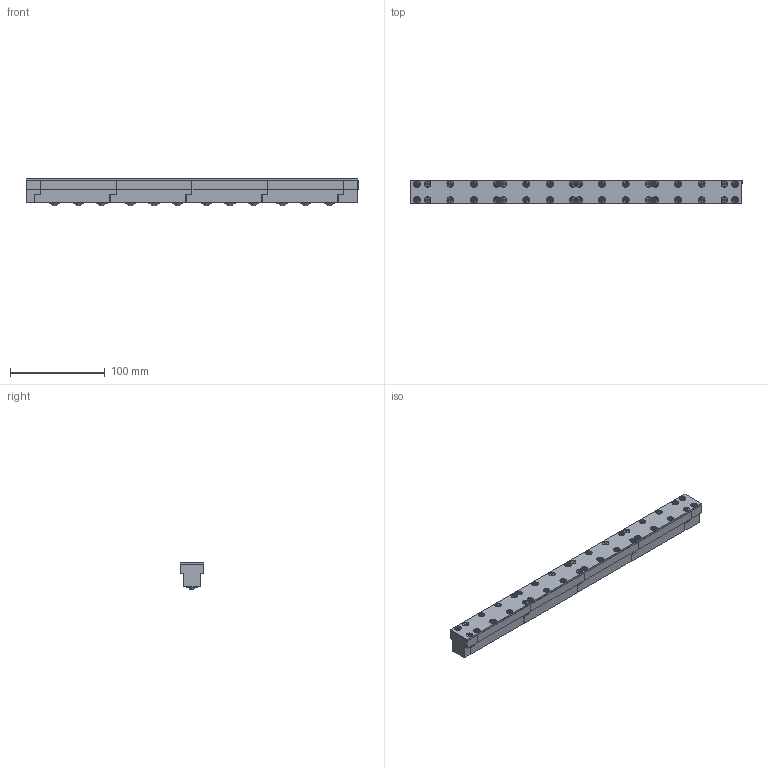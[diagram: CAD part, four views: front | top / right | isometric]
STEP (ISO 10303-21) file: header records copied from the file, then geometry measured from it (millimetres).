
FILE_DESCRIPTION(/* description */ (''),/* implementation_level */ '2;1');
FILE_NAME(/* name */ 'Z:\34-Tei\01-web 3Dデータ\43-ISR-18T\X2\578B\X0\\ISR-18T-350.stp',/* time_stamp */ '2015-01-16T10:27:47+09:00',/* author */ ('yamaki'),/* organization */ (''),/* preprocessor_version */ 'ST-DEVELOPER v15.6',/* originating_system */ 'Autodesk Inventor 2015',/* authorisation */ '');
FILE_SCHEMA (('AUTOMOTIVE_DESIGN { 1 0 10303 214 3 1 1 }'));
Length unit declared in the file: millimetre
Products named in the file (9): 4912; 4903TB; 4903CB; JIS B 1111 - Csunk M3 x 6 - H; JIS B 1176 - M3 x 10; 4903SL; A108AA; 4903PS; 4903AA
Bounding box: 350 x 25 x 28.97 mm (x, y, z)
Volume: 164255.9 mm3; surface area: 106641.1 mm2
Topology: 77 solids, 77 shells, 2004 faces, 4952 edges, 3180 vertices
Faces by surface type: plane 748, cone 643, cylinder 389, torus 200, sphere 12, bspline 12
Full cylindrical faces by diameter (mm): 2 x17, 2.459 x46, 2.693 x36, 3 x46, 3.242 x12, 3.5 x46, 5.5 x46, 6.2 x5, 8 x1, 10 x12, 13.4 x12, 13.9 x12, 14 x12, 16 x12, 19.8 x12, 20 x12
Entity records: 8893 total; most frequent: CARTESIAN_POINT 1716, DIRECTION 1532, ORIENTED_EDGE 1116, AXIS2_PLACEMENT_3D 642, EDGE_CURVE 558, EDGE_LOOP 543, VERTEX_POINT 439, FACE_OUTER_BOUND 281
